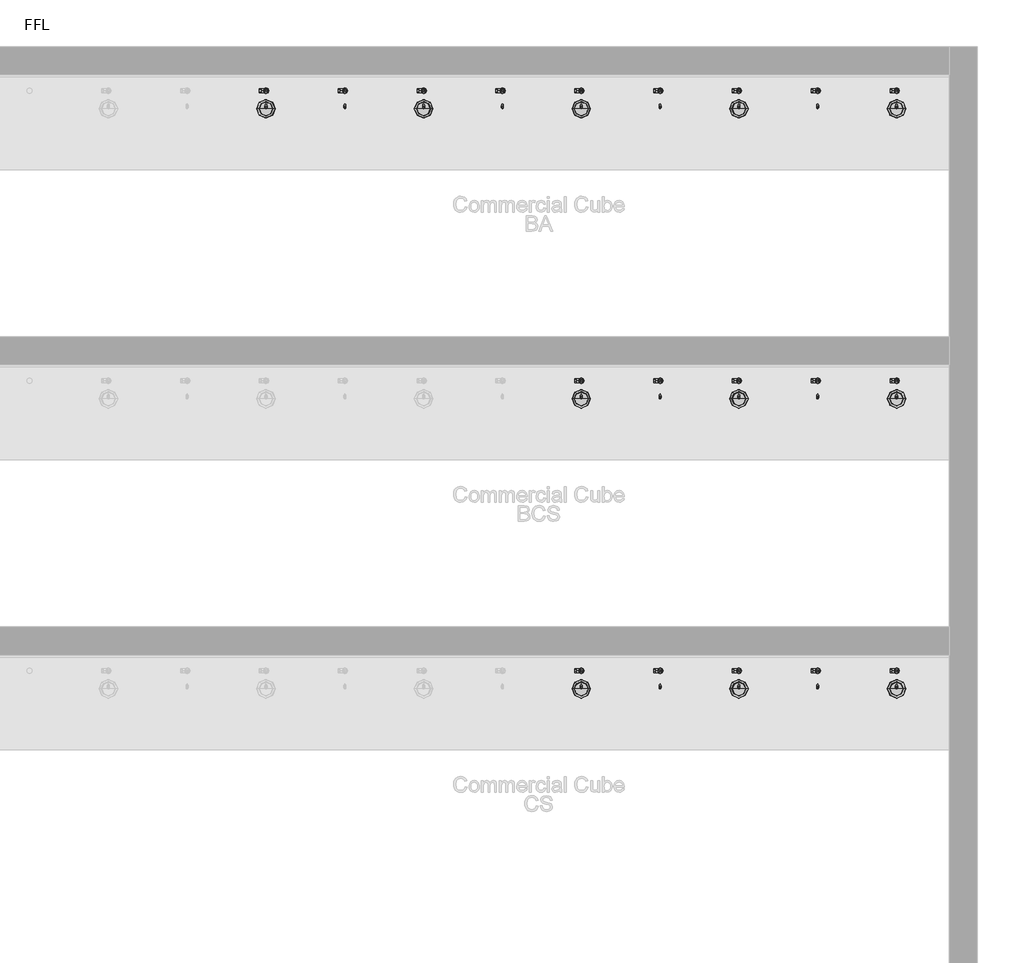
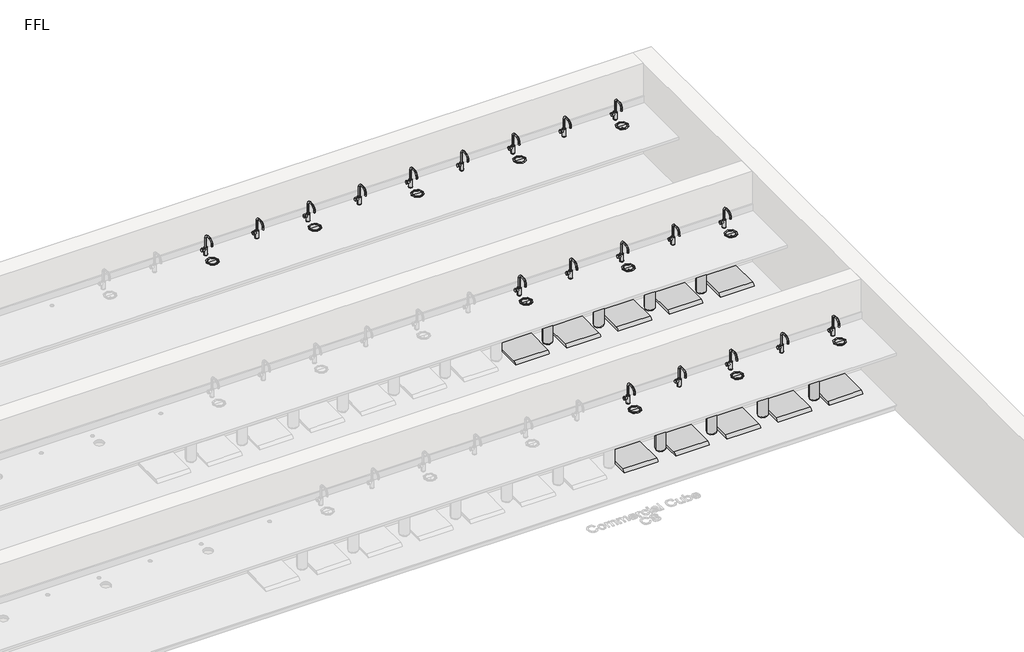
# One storey, part 8 of 14: 63 flow terminals.
"""IFC4 building model written with IfcOpenShell, lengths in millimetres."""

from ifc_helpers import new_model, si_unit, origin, place, context, project, spatial, transform, mapped, element, save
from components import flow_terminal_100_people_gold_0dc622b1, flow_terminal_100_people_nickel_19c471c0, bcs_and_bc_6de74493, bright_chrome_743c02cf, bright_chrome_cb32e6d9, co2_gas_cylinder_20234e14

model = new_model("IFC4")

# Units and contexts
model_context = context("Model", 3, world=origin())
ifc_project = project(units=[si_unit("LENGTHUNIT", "METRE", prefix="MILLI")], contexts=[model_context])

# Site, building, storey
site = spatial("IfcSite", under=ifc_project)
building = spatial("IfcBuilding", under=site)
storey = spatial("IfcBuildingStorey", under=building, Name="FFL", Elevation=0.0)

# Flow terminals
placement = place(None, origin())
flow_terminal_100_people_gold_shape = flow_terminal_100_people_gold_0dc622b1(model_context)
element("IfcFlowTerminal", 1, ObjectType="PlumFixt_Zip Commercial_Cube_BA : 100 People - Gold", at=placement, inside=storey, context=model_context, shape_type="MappedRepresentation", body=[
    mapped(flow_terminal_100_people_gold_shape, transform((7279.2647071, 7582.7393304, 0.0), x_axis=(1.0, 0.0, 0.0), y_axis=(0.0, 1.0, 0.0), z_axis=(0.0, 0.0, 1.0))),
])
element("IfcFlowTerminal", 2, ObjectType="PlumFixt_Zip Commercial_Cube_BA : 100 People - Gold", at=placement, inside=storey, context=model_context, shape_type="MappedRepresentation", body=[
    mapped(flow_terminal_100_people_gold_shape, transform((9529.2647071, 7582.7393304, 0.0), x_axis=(1.0, 0.0, 0.0), y_axis=(0.0, 1.0, 0.0), z_axis=(0.0, 0.0, 1.0))),
])
element("IfcFlowTerminal", 3, ObjectType="PlumFixt_Zip Commercial_Cube_BA : 100 People - Gunmetal", at=placement, inside=storey, context=model_context, shape_type="MappedRepresentation", body=[
    mapped(flow_terminal_100_people_gold_shape, transform((8029.2647071, 7582.7393304, 0.0), x_axis=(1.0, 0.0, 0.0), y_axis=(0.0, 1.0, 0.0), z_axis=(0.0, 0.0, 1.0))),
])
flow_terminal_100_people_nickel_shape = flow_terminal_100_people_nickel_19c471c0(model_context)
element("IfcFlowTerminal", 4, ObjectType="PlumFixt_Zip Commercial_Cube_CS : 100 People - Gunmetal", at=placement, inside=storey, context=model_context, shape_type="MappedRepresentation", body=[
    mapped(flow_terminal_100_people_nickel_shape, transform((8029.2647071, 2062.7393304, 0.0), x_axis=(1.0, 0.0, 0.0), y_axis=(0.0, 1.0, 0.0), z_axis=(0.0, 0.0, 1.0))),
])
element("IfcFlowTerminal", 5, ObjectType="PlumFixt_Zip Commercial_Cube_BA : 100 People - Matte Black", at=placement, inside=storey, context=model_context, shape_type="MappedRepresentation", body=[
    mapped(flow_terminal_100_people_gold_shape, transform((8779.2647071, 7582.7393304, 0.0), x_axis=(1.0, 0.0, 0.0), y_axis=(0.0, 1.0, 0.0), z_axis=(0.0, 0.0, 1.0))),
])
element("IfcFlowTerminal", 6, ObjectType="PlumFixt_Zip Commercial_Cube_BCS : 100 People - Matte Black", at=placement, inside=storey, context=model_context, shape_type="MappedRepresentation", body=[
    mapped(flow_terminal_100_people_nickel_shape, transform((8779.2647071, 4822.7393304, 0.0), x_axis=(1.0, 0.0, 0.0), y_axis=(0.0, 1.0, 0.0), z_axis=(0.0, 0.0, 1.0))),
])
element("IfcFlowTerminal", 7, ObjectType="PlumFixt_Zip Commercial_Cube_CS : 100 People - Matte Black", at=placement, inside=storey, context=model_context, shape_type="MappedRepresentation", body=[
    mapped(flow_terminal_100_people_nickel_shape, transform((8779.2647071, 2062.7393304, 0.0), x_axis=(1.0, 0.0, 0.0), y_axis=(0.0, 1.0, 0.0), z_axis=(0.0, 0.0, 1.0))),
])
element("IfcFlowTerminal", 8, ObjectType="PlumFixt_Zip Commercial_Cube_BCS : 100 People - Nickel", at=placement, inside=storey, context=model_context, shape_type="MappedRepresentation", body=[
    mapped(flow_terminal_100_people_nickel_shape, transform((9529.2647071, 4822.7393304, 0.0), x_axis=(1.0, 0.0, 0.0), y_axis=(0.0, 1.0, 0.0), z_axis=(0.0, 0.0, 1.0))),
])
element("IfcFlowTerminal", 9, ObjectType="PlumFixt_Zip Commercial_Cube_CS : 100 People - Nickel", at=placement, inside=storey, context=model_context, shape_type="MappedRepresentation", body=[
    mapped(flow_terminal_100_people_nickel_shape, transform((9529.2647071, 2062.7393304, 0.0), x_axis=(1.0, 0.0, 0.0), y_axis=(0.0, 1.0, 0.0), z_axis=(0.0, 0.0, 1.0))),
])
element("IfcFlowTerminal", 10, ObjectType="PlumFixt_Zip Commercial_Cube_BA : 100 People - Platinum", at=placement, inside=storey, context=model_context, shape_type="MappedRepresentation", body=[
    mapped(flow_terminal_100_people_gold_shape, transform((10279.2647071, 7582.7393304, 0.0), x_axis=(1.0, 0.0, 0.0), y_axis=(0.0, 1.0, 0.0), z_axis=(0.0, 0.0, 1.0))),
])
element("IfcFlowTerminal", 11, ObjectType="PlumFixt_Zip Commercial_Cube_BCS : 100 People - Platinum", at=placement, inside=storey, context=model_context, shape_type="MappedRepresentation", body=[
    mapped(flow_terminal_100_people_nickel_shape, transform((10279.2647071, 4822.7393304, 0.0), x_axis=(1.0, 0.0, 0.0), y_axis=(0.0, 1.0, 0.0), z_axis=(0.0, 0.0, 1.0))),
])
element("IfcFlowTerminal", 12, ObjectType="PlumFixt_Zip Commercial_Cube_CS : 100 People - Platinum", at=placement, inside=storey, context=model_context, shape_type="MappedRepresentation", body=[
    mapped(flow_terminal_100_people_nickel_shape, transform((10279.2647071, 2062.7393304, 0.0), x_axis=(1.0, 0.0, 0.0), y_axis=(0.0, 1.0, 0.0), z_axis=(0.0, 0.0, 1.0))),
])
element("IfcFlowTerminal", 13, ObjectType="PlumFixt_Zip Commercial_Cube_BA : 100 People - Rose Gold", at=placement, inside=storey, context=model_context, shape_type="MappedRepresentation", body=[
    mapped(flow_terminal_100_people_gold_shape, transform((11029.2647071, 7582.7393304, 0.0), x_axis=(1.0, 0.0, 0.0), y_axis=(0.0, 1.0, 0.0), z_axis=(0.0, 0.0, 1.0))),
])
element("IfcFlowTerminal", 14, ObjectType="PlumFixt_Zip Commercial_Cube_BCS : 100 People - Rose Gold", at=placement, inside=storey, context=model_context, shape_type="MappedRepresentation", body=[
    mapped(flow_terminal_100_people_nickel_shape, transform((11029.2647071, 4822.7393304, 0.0), x_axis=(1.0, 0.0, 0.0), y_axis=(0.0, 1.0, 0.0), z_axis=(0.0, 0.0, 1.0))),
])
element("IfcFlowTerminal", 15, ObjectType="PlumFixt_Zip Commercial_Cube_CS : 100 People - Rose Gold", at=placement, inside=storey, context=model_context, shape_type="MappedRepresentation", body=[
    mapped(flow_terminal_100_people_nickel_shape, transform((11029.2647071, 2062.7393304, 0.0), x_axis=(1.0, 0.0, 0.0), y_axis=(0.0, 1.0, 0.0), z_axis=(0.0, 0.0, 1.0))),
])
bcs_and_bc_shape = bcs_and_bc_6de74493(model_context)
element("IfcFlowTerminal", 16, ObjectType="z_PlumFixt_Zip_Vent Tray : BCS and BC", at=placement, inside=storey, context=model_context, shape_type="MappedRepresentation", body=[
    mapped(bcs_and_bc_shape, transform((8029.2647071, 4945.7393304, 100.0), x_axis=(1.0, 0.0, 0.0), y_axis=(0.0, 1.0, 0.0), z_axis=(0.0, 0.0, 1.0))),
])
element("IfcFlowTerminal", 17, ObjectType="z_PlumFixt_Zip_Vent Tray : BCS and BC", at=placement, inside=storey, context=model_context, shape_type="MappedRepresentation", body=[
    mapped(bcs_and_bc_shape, transform((8779.2647071, 4945.7393304, 100.0), x_axis=(1.0, 0.0, 0.0), y_axis=(0.0, 1.0, 0.0), z_axis=(0.0, 0.0, 1.0))),
])
element("IfcFlowTerminal", 18, ObjectType="z_PlumFixt_Zip_Vent Tray : BCS and BC", at=placement, inside=storey, context=model_context, shape_type="MappedRepresentation", body=[
    mapped(bcs_and_bc_shape, transform((9529.2647071, 4945.7393304, 100.0), x_axis=(1.0, 0.0, 0.0), y_axis=(0.0, 1.0, 0.0), z_axis=(0.0, 0.0, 1.0))),
])
element("IfcFlowTerminal", 19, ObjectType="z_PlumFixt_Zip_Vent Tray : BCS and BC", at=placement, inside=storey, context=model_context, shape_type="MappedRepresentation", body=[
    mapped(bcs_and_bc_shape, transform((10279.2647071, 4945.7393304, 100.0), x_axis=(1.0, 0.0, 0.0), y_axis=(0.0, 1.0, 0.0), z_axis=(0.0, 0.0, 1.0))),
])
element("IfcFlowTerminal", 20, ObjectType="z_PlumFixt_Zip_Vent Tray : BCS and BC", at=placement, inside=storey, context=model_context, shape_type="MappedRepresentation", body=[
    mapped(bcs_and_bc_shape, transform((11029.2647071, 4945.7393304, 100.0), x_axis=(1.0, 0.0, 0.0), y_axis=(0.0, 1.0, 0.0), z_axis=(0.0, 0.0, 1.0))),
])
bright_chrome_shape = bright_chrome_743c02cf(model_context)
element("IfcFlowTerminal", 21, ObjectType="z_PlumFixt_Zip_Font : Brushed Chrome", at=placement, inside=storey, context=model_context, shape_type="MappedRepresentation", body=[
    mapped(bright_chrome_shape, transform((5029.2647071, 7511.2393304, 900.0), x_axis=(1.0000000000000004, 0.0, 0.0), y_axis=(0.0, 1.0000000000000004, 0.0), z_axis=(0.0, 0.0, 1.0))),
])
element("IfcFlowTerminal", 22, ObjectType="z_PlumFixt_Zip_Font : Brushed Chrome", at=placement, inside=storey, context=model_context, shape_type="MappedRepresentation", body=[
    mapped(bright_chrome_shape, transform((6529.2647071, 7511.2393304, 900.0), x_axis=(1.0000000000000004, 0.0, 0.0), y_axis=(0.0, 1.0000000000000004, 0.0), z_axis=(0.0, 0.0, 1.0))),
])
element("IfcFlowTerminal", 23, ObjectType="z_PlumFixt_Zip_Font : Brushed Chrome", at=placement, inside=storey, context=model_context, shape_type="MappedRepresentation", body=[
    mapped(bright_chrome_shape, transform((8029.2647071, 7511.2393304, 900.0), x_axis=(1.0000000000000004, 0.0, 0.0), y_axis=(0.0, 1.0000000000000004, 0.0), z_axis=(0.0, 0.0, 1.0))),
])
element("IfcFlowTerminal", 24, ObjectType="z_PlumFixt_Zip_Font : Brushed Chrome", at=placement, inside=storey, context=model_context, shape_type="MappedRepresentation", body=[
    mapped(bright_chrome_shape, transform((9529.2647071, 7511.2393304, 900.0), x_axis=(1.0000000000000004, 0.0, 0.0), y_axis=(0.0, 1.0000000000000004, 0.0), z_axis=(0.0, 0.0, 1.0))),
])
element("IfcFlowTerminal", 25, ObjectType="z_PlumFixt_Zip_Font : Brushed Chrome", at=placement, inside=storey, context=model_context, shape_type="MappedRepresentation", body=[
    mapped(bright_chrome_shape, transform((11029.2647071, 7511.2393304, 900.0), x_axis=(1.0000000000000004, 0.0, 0.0), y_axis=(0.0, 1.0000000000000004, 0.0), z_axis=(0.0, 0.0, 1.0))),
])
element("IfcFlowTerminal", 26, ObjectType="z_PlumFixt_Zip_Font : Brushed Chrome", at=placement, inside=storey, context=model_context, shape_type="MappedRepresentation", body=[
    mapped(bright_chrome_shape, transform((8029.2647071, 4751.2393304, 900.0), x_axis=(1.0000000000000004, 0.0, 0.0), y_axis=(0.0, 1.0000000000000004, 0.0), z_axis=(0.0, 0.0, 1.0))),
])
element("IfcFlowTerminal", 27, ObjectType="z_PlumFixt_Zip_Font : Brushed Chrome", at=placement, inside=storey, context=model_context, shape_type="MappedRepresentation", body=[
    mapped(bright_chrome_shape, transform((9529.2647071, 4751.2393304, 900.0), x_axis=(1.0000000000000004, 0.0, 0.0), y_axis=(0.0, 1.0000000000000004, 0.0), z_axis=(0.0, 0.0, 1.0))),
])
element("IfcFlowTerminal", 28, ObjectType="z_PlumFixt_Zip_Font : Brushed Chrome", at=placement, inside=storey, context=model_context, shape_type="MappedRepresentation", body=[
    mapped(bright_chrome_shape, transform((11029.2647071, 4751.2393304, 900.0), x_axis=(1.0000000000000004, 0.0, 0.0), y_axis=(0.0, 1.0000000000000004, 0.0), z_axis=(0.0, 0.0, 1.0))),
])
element("IfcFlowTerminal", 29, ObjectType="z_PlumFixt_Zip_Font : Brushed Chrome", at=placement, inside=storey, context=model_context, shape_type="MappedRepresentation", body=[
    mapped(bright_chrome_shape, transform((8029.2647071, 1991.2393304, 900.0), x_axis=(1.0000000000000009, 0.0, 0.0), y_axis=(0.0, 1.0000000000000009, 0.0), z_axis=(0.0, 0.0, 1.0))),
])
element("IfcFlowTerminal", 30, ObjectType="z_PlumFixt_Zip_Font : Brushed Chrome", at=placement, inside=storey, context=model_context, shape_type="MappedRepresentation", body=[
    mapped(bright_chrome_shape, transform((9529.2647071, 1991.2393304, 900.0), x_axis=(1.0000000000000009, 0.0, 0.0), y_axis=(0.0, 1.0000000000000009, 0.0), z_axis=(0.0, 0.0, 1.0))),
])
element("IfcFlowTerminal", 31, ObjectType="z_PlumFixt_Zip_Font : Brushed Chrome", at=placement, inside=storey, context=model_context, shape_type="MappedRepresentation", body=[
    mapped(bright_chrome_shape, transform((11029.2647071, 1991.2393304, 900.0), x_axis=(1.0000000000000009, 0.0, 0.0), y_axis=(0.0, 1.0000000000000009, 0.0), z_axis=(0.0, 0.0, 1.0))),
])
bright_chrome_2_shape = bright_chrome_cb32e6d9(model_context)
element("IfcFlowTerminal", 32, ObjectType="z_PlumFixt_Zip_Cube : Brushed Nickel", at=placement, inside=storey, context=model_context, shape_type="MappedRepresentation", body=[
    mapped(bright_chrome_2_shape, transform((5012.2647071, 7610.7393304, 900.0), x_axis=(1.0000000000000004, 0.0, 0.0), y_axis=(0.0, 1.0000000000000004, 0.0), z_axis=(0.0, 0.0, 1.0))),
])
element("IfcFlowTerminal", 33, ObjectType="z_PlumFixt_Zip_Cube : Brushed Rose Gold", at=placement, inside=storey, context=model_context, shape_type="MappedRepresentation", body=[
    mapped(bright_chrome_2_shape, transform((5762.2647071, 7610.7393304, 900.0), x_axis=(1.0000000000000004, 0.0, 0.0), y_axis=(0.0, 1.0000000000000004, 0.0), z_axis=(0.0, 0.0, 1.0))),
])
co2_gas_cylinder_shape = co2_gas_cylinder_20234e14(model_context)
element("IfcFlowTerminal", 34, ObjectType="z_PlumFixt_Zip_CO2 Gas Cylinder : CO2 Gas Cylinder", at=placement, inside=storey, context=model_context, shape_type="MappedRepresentation", body=[
    mapped(co2_gas_cylinder_shape, transform((8384.2647071, 4749.2393304, 100.0), x_axis=(-1.0, 0.0, 0.0), y_axis=(0.0, -1.0, 0.0), z_axis=(0.0, 0.0, 1.0))),
])
element("IfcFlowTerminal", 35, ObjectType="z_PlumFixt_Zip_CO2 Gas Cylinder : CO2 Gas Cylinder", at=placement, inside=storey, context=model_context, shape_type="MappedRepresentation", body=[
    mapped(co2_gas_cylinder_shape, transform((9134.2647071, 4749.2393304, 100.0), x_axis=(-1.0, 0.0, 0.0), y_axis=(0.0, -1.0, 0.0), z_axis=(0.0, 0.0, 1.0))),
])
element("IfcFlowTerminal", 36, ObjectType="z_PlumFixt_Zip_CO2 Gas Cylinder : CO2 Gas Cylinder", at=placement, inside=storey, context=model_context, shape_type="MappedRepresentation", body=[
    mapped(co2_gas_cylinder_shape, transform((9884.2647071, 4749.2393304, 100.0), x_axis=(-1.0, 0.0, 0.0), y_axis=(0.0, -1.0, 0.0), z_axis=(0.0, 0.0, 1.0))),
])
element("IfcFlowTerminal", 37, ObjectType="z_PlumFixt_Zip_CO2 Gas Cylinder : CO2 Gas Cylinder", at=placement, inside=storey, context=model_context, shape_type="MappedRepresentation", body=[
    mapped(co2_gas_cylinder_shape, transform((10634.2647071, 4749.2393304, 100.0), x_axis=(-1.0, 0.0, 0.0), y_axis=(0.0, -1.0, 0.0), z_axis=(0.0, 0.0, 1.0))),
])
element("IfcFlowTerminal", 38, ObjectType="z_PlumFixt_Zip_CO2 Gas Cylinder : CO2 Gas Cylinder", at=placement, inside=storey, context=model_context, shape_type="MappedRepresentation", body=[
    mapped(co2_gas_cylinder_shape, transform((8441.2647071, 1983.2393304, 100.0), x_axis=(-1.0, 0.0, 0.0), y_axis=(0.0, -1.0, 0.0), z_axis=(0.0, 0.0, 1.0))),
])
element("IfcFlowTerminal", 39, ObjectType="z_PlumFixt_Zip_CO2 Gas Cylinder : CO2 Gas Cylinder", at=placement, inside=storey, context=model_context, shape_type="MappedRepresentation", body=[
    mapped(co2_gas_cylinder_shape, transform((9191.2647071, 1983.2393304, 100.0), x_axis=(-1.0, 0.0, 0.0), y_axis=(0.0, -1.0, 0.0), z_axis=(0.0, 0.0, 1.0))),
])
element("IfcFlowTerminal", 40, ObjectType="z_PlumFixt_Zip_CO2 Gas Cylinder : CO2 Gas Cylinder", at=placement, inside=storey, context=model_context, shape_type="MappedRepresentation", body=[
    mapped(co2_gas_cylinder_shape, transform((9941.2647071, 1983.2393304, 100.0), x_axis=(-1.0, 0.0, 0.0), y_axis=(0.0, -1.0, 0.0), z_axis=(0.0, 0.0, 1.0))),
])
element("IfcFlowTerminal", 41, ObjectType="z_PlumFixt_Zip_CO2 Gas Cylinder : CO2 Gas Cylinder", at=placement, inside=storey, context=model_context, shape_type="MappedRepresentation", body=[
    mapped(co2_gas_cylinder_shape, transform((10691.2647071, 1983.2393304, 100.0), x_axis=(-1.0, 0.0, 0.0), y_axis=(0.0, -1.0, 0.0), z_axis=(0.0, 0.0, 1.0))),
])
element("IfcFlowTerminal", 42, ObjectType="z_PlumFixt_Zip_Vent Tray : CS and C", at=placement, inside=storey, context=model_context, shape_type="MappedRepresentation", body=[
    mapped(bcs_and_bc_shape, transform((8029.2647071, 2185.7393304, 100.0), x_axis=(1.0, 0.0, 0.0), y_axis=(0.0, 1.0, 0.0), z_axis=(0.0, 0.0, 1.0))),
])
element("IfcFlowTerminal", 43, ObjectType="z_PlumFixt_Zip_Vent Tray : CS and C", at=placement, inside=storey, context=model_context, shape_type="MappedRepresentation", body=[
    mapped(bcs_and_bc_shape, transform((8779.2647071, 2185.7393304, 100.0), x_axis=(1.0, 0.0, 0.0), y_axis=(0.0, 1.0, 0.0), z_axis=(0.0, 0.0, 1.0))),
])
element("IfcFlowTerminal", 44, ObjectType="z_PlumFixt_Zip_Vent Tray : CS and C", at=placement, inside=storey, context=model_context, shape_type="MappedRepresentation", body=[
    mapped(bcs_and_bc_shape, transform((9529.2647071, 2185.7393304, 100.0), x_axis=(1.0, 0.0, 0.0), y_axis=(0.0, 1.0, 0.0), z_axis=(0.0, 0.0, 1.0))),
])
element("IfcFlowTerminal", 45, ObjectType="z_PlumFixt_Zip_Vent Tray : CS and C", at=placement, inside=storey, context=model_context, shape_type="MappedRepresentation", body=[
    mapped(bcs_and_bc_shape, transform((10279.2647071, 2185.7393304, 100.0), x_axis=(1.0, 0.0, 0.0), y_axis=(0.0, 1.0, 0.0), z_axis=(0.0, 0.0, 1.0))),
])
element("IfcFlowTerminal", 46, ObjectType="z_PlumFixt_Zip_Vent Tray : CS and C", at=placement, inside=storey, context=model_context, shape_type="MappedRepresentation", body=[
    mapped(bcs_and_bc_shape, transform((11029.2647071, 2185.7393304, 100.0), x_axis=(1.0, 0.0, 0.0), y_axis=(0.0, 1.0, 0.0), z_axis=(0.0, 0.0, 1.0))),
])
element("IfcFlowTerminal", 47, ObjectType="z_PlumFixt_Zip_Cube : Gloss Black", at=placement, inside=storey, context=model_context, shape_type="MappedRepresentation", body=[
    mapped(bright_chrome_2_shape, transform((6512.2647071, 7610.7393304, 900.0), x_axis=(1.0000000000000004, 0.0, 0.0), y_axis=(0.0, 1.0000000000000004, 0.0), z_axis=(0.0, 0.0, 1.0))),
])
element("IfcFlowTerminal", 48, ObjectType="z_PlumFixt_Zip_Cube : Gold", at=placement, inside=storey, context=model_context, shape_type="MappedRepresentation", body=[
    mapped(bright_chrome_2_shape, transform((7262.2647071, 7610.7393304, 900.0), x_axis=(1.0000000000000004, 0.0, 0.0), y_axis=(0.0, 1.0000000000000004, 0.0), z_axis=(0.0, 0.0, 1.0))),
])
element("IfcFlowTerminal", 49, ObjectType="z_PlumFixt_Zip_Cube : Gold", at=placement, inside=storey, context=model_context, shape_type="MappedRepresentation", body=[
    mapped(bright_chrome_2_shape, transform((9512.2647071, 7610.7393304, 900.0), x_axis=(1.0000000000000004, 0.0, 0.0), y_axis=(0.0, 1.0000000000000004, 0.0), z_axis=(0.0, 0.0, 1.0))),
])
element("IfcFlowTerminal", 50, ObjectType="z_PlumFixt_Zip_Cube : Gunmetal", at=placement, inside=storey, context=model_context, shape_type="MappedRepresentation", body=[
    mapped(bright_chrome_2_shape, transform((8012.2647071, 7610.7393304, 900.0), x_axis=(1.0000000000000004, 0.0, 0.0), y_axis=(0.0, 1.0000000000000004, 0.0), z_axis=(0.0, 0.0, 1.0))),
])
element("IfcFlowTerminal", 51, ObjectType="z_PlumFixt_Zip_Cube : Gunmetal", at=placement, inside=storey, context=model_context, shape_type="MappedRepresentation", body=[
    mapped(bright_chrome_2_shape, transform((8012.2647071, 4850.7393304, 900.0), x_axis=(1.0000000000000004, 0.0, 0.0), y_axis=(0.0, 1.0000000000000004, 0.0), z_axis=(0.0, 0.0, 1.0))),
])
element("IfcFlowTerminal", 52, ObjectType="z_PlumFixt_Zip_Cube : Gunmetal", at=placement, inside=storey, context=model_context, shape_type="MappedRepresentation", body=[
    mapped(bright_chrome_2_shape, transform((8012.2647071, 2090.7393304, 900.0), x_axis=(1.0000000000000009, 0.0, 0.0), y_axis=(0.0, 1.0000000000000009, 0.0), z_axis=(0.0, 0.0, 1.0))),
])
element("IfcFlowTerminal", 53, ObjectType="z_PlumFixt_Zip_Cube : Matte Black", at=placement, inside=storey, context=model_context, shape_type="MappedRepresentation", body=[
    mapped(bright_chrome_2_shape, transform((8762.2647071, 7610.7393304, 900.0), x_axis=(1.0000000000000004, 0.0, 0.0), y_axis=(0.0, 1.0000000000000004, 0.0), z_axis=(0.0, 0.0, 1.0))),
])
element("IfcFlowTerminal", 54, ObjectType="z_PlumFixt_Zip_Cube : Matte Black", at=placement, inside=storey, context=model_context, shape_type="MappedRepresentation", body=[
    mapped(bright_chrome_2_shape, transform((8762.2647071, 4850.7393304, 900.0), x_axis=(1.0000000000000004, 0.0, 0.0), y_axis=(0.0, 1.0000000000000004, 0.0), z_axis=(0.0, 0.0, 1.0))),
])
element("IfcFlowTerminal", 55, ObjectType="z_PlumFixt_Zip_Cube : Matte Black", at=placement, inside=storey, context=model_context, shape_type="MappedRepresentation", body=[
    mapped(bright_chrome_2_shape, transform((8762.2647071, 2090.7393304, 900.0), x_axis=(1.0000000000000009, 0.0, 0.0), y_axis=(0.0, 1.0000000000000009, 0.0), z_axis=(0.0, 0.0, 1.0))),
])
element("IfcFlowTerminal", 56, ObjectType="z_PlumFixt_Zip_Cube : Nickel", at=placement, inside=storey, context=model_context, shape_type="MappedRepresentation", body=[
    mapped(bright_chrome_2_shape, transform((9512.2647071, 4850.7393304, 900.0), x_axis=(1.0000000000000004, 0.0, 0.0), y_axis=(0.0, 1.0000000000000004, 0.0), z_axis=(0.0, 0.0, 1.0))),
])
element("IfcFlowTerminal", 57, ObjectType="z_PlumFixt_Zip_Cube : Nickel", at=placement, inside=storey, context=model_context, shape_type="MappedRepresentation", body=[
    mapped(bright_chrome_2_shape, transform((9512.2647071, 2090.7393304, 900.0), x_axis=(1.0000000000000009, 0.0, 0.0), y_axis=(0.0, 1.0000000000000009, 0.0), z_axis=(0.0, 0.0, 1.0))),
])
element("IfcFlowTerminal", 58, ObjectType="z_PlumFixt_Zip_Cube : Platinum", at=placement, inside=storey, context=model_context, shape_type="MappedRepresentation", body=[
    mapped(bright_chrome_2_shape, transform((10262.2647071, 7610.7393304, 900.0), x_axis=(1.0000000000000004, 0.0, 0.0), y_axis=(0.0, 1.0000000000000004, 0.0), z_axis=(0.0, 0.0, 1.0))),
])
element("IfcFlowTerminal", 59, ObjectType="z_PlumFixt_Zip_Cube : Platinum", at=placement, inside=storey, context=model_context, shape_type="MappedRepresentation", body=[
    mapped(bright_chrome_2_shape, transform((10262.2647071, 4850.7393304, 900.0), x_axis=(1.0000000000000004, 0.0, 0.0), y_axis=(0.0, 1.0000000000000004, 0.0), z_axis=(0.0, 0.0, 1.0))),
])
element("IfcFlowTerminal", 60, ObjectType="z_PlumFixt_Zip_Cube : Platinum", at=placement, inside=storey, context=model_context, shape_type="MappedRepresentation", body=[
    mapped(bright_chrome_2_shape, transform((10262.2647071, 2090.7393304, 900.0), x_axis=(1.0000000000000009, 0.0, 0.0), y_axis=(0.0, 1.0000000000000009, 0.0), z_axis=(0.0, 0.0, 1.0))),
])
element("IfcFlowTerminal", 61, ObjectType="z_PlumFixt_Zip_Cube : Rose Gold", at=placement, inside=storey, context=model_context, shape_type="MappedRepresentation", body=[
    mapped(bright_chrome_2_shape, transform((11012.2647071, 7610.7393304, 900.0), x_axis=(1.0000000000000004, 0.0, 0.0), y_axis=(0.0, 1.0000000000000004, 0.0), z_axis=(0.0, 0.0, 1.0))),
])
element("IfcFlowTerminal", 62, ObjectType="z_PlumFixt_Zip_Cube : Rose Gold", at=placement, inside=storey, context=model_context, shape_type="MappedRepresentation", body=[
    mapped(bright_chrome_2_shape, transform((11012.2647071, 4850.7393304, 900.0), x_axis=(1.0000000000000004, 0.0, 0.0), y_axis=(0.0, 1.0000000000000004, 0.0), z_axis=(0.0, 0.0, 1.0))),
])
element("IfcFlowTerminal", 63, ObjectType="z_PlumFixt_Zip_Cube : Rose Gold", at=placement, inside=storey, context=model_context, shape_type="MappedRepresentation", body=[
    mapped(bright_chrome_2_shape, transform((11012.2647071, 2090.7393304, 900.0), x_axis=(1.0000000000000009, 0.0, 0.0), y_axis=(0.0, 1.0000000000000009, 0.0), z_axis=(0.0, 0.0, 1.0))),
])

save(model, "model.ifc")
